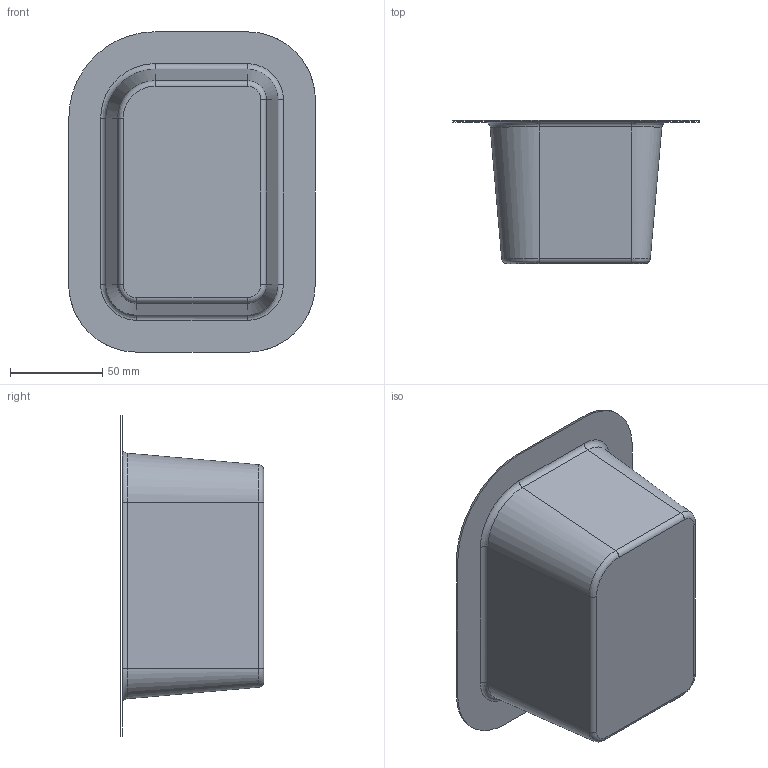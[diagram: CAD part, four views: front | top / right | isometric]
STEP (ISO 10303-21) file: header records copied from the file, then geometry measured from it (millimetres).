
FILE_DESCRIPTION(('CATIA V5 STEP Exchange'),'2;1');
FILE_NAME('C:\_Andres\UNIVERSIDAD\IQS\ASIGNATURAS\DAO\Controles\1617\c3\2inicio\Munar_Parra_control3_v20.stp','2017-02-17T14:22:09+00:00',('none'),('none'),'CATIA Version 5-6 Release 2014 SP1 HF18','CATIA V5 STEP AP203','none');
FILE_SCHEMA(('CONFIG_CONTROL_DESIGN'));
Length unit declared in the file: millimetre
Products named in the file (1): Munar_Parra_control3_v20
Bounding box: 133.42 x 77.71 x 173.42 mm (x, y, z)
Surface area: 70856.8 mm2 (no closed solid volume)
Topology: 0 solids, 2 shells, 27 faces, 80 edges, 57 vertices
Faces by surface type: bspline 16, cylinder 8, plane 3
Entity records: 1931 total; most frequent: CARTESIAN_POINT 1335, ORIENTED_EDGE 128, EDGE_CURVE 72, B_SPLINE_CURVE_WITH_KNOTS 54, DIRECTION 50, VERTEX_POINT 48, EDGE_LOOP 28, ADVANCED_FACE 27
